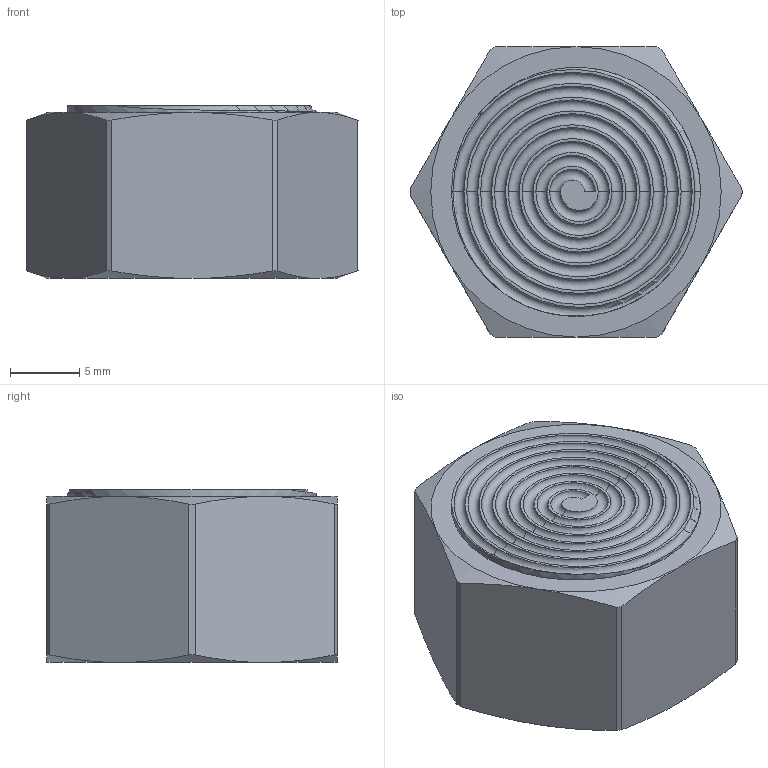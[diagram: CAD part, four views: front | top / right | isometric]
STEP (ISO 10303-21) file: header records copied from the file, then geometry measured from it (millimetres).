
FILE_DESCRIPTION(/* description */ ('STEP AP203'),/* implementation_level */ '2;1');
FILE_NAME(/* name */ 'P_MZ_Z_1434',/* time_stamp */ '2023-02-13T11:12:36+01:00',/* author */ ('License CC BY-ND 4.0'),/* organization */ ('CADENAS'),/* preprocessor_version */ 'ST-DEVELOPER v18.102',/* originating_system */ 'PARTsolutions',/* authorisation */ ' ');
FILE_SCHEMA (('CONFIG_CONTROL_DESIGN'));
Length unit declared in the file: millimetre
Products named in the file (1): P_MZ_Z_1434
Bounding box: 24 x 21 x 12.5 mm (x, y, z)
Volume: 4492.6 mm3; surface area: 1869.2 mm2
Topology: 1 solids, 1 shells, 48 faces, 122 edges, 77 vertices
Faces by surface type: torus 17, cone 13, plane 10, cylinder 8
Full cylindrical faces by diameter (mm): 4.134 x1, 18 x1
Entity records: 1545 total; most frequent: CARTESIAN_POINT 358, DIRECTION 267, ORIENTED_EDGE 234, AXIS2_PLACEMENT_3D 127, EDGE_CURVE 117, CIRCLE 78, VERTEX_POINT 76, FACE_BOUND 53
